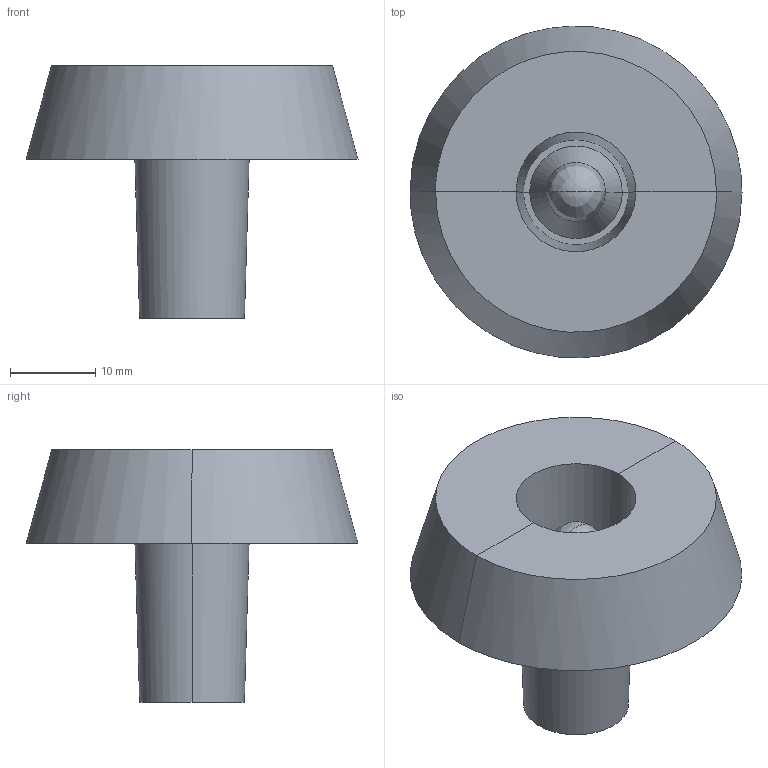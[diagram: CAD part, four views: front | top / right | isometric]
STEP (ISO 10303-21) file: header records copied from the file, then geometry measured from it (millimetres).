
FILE_DESCRIPTION(/* description */ (''),/* implementation_level */ '2;1');
FILE_NAME(/* name */ 'AMAMI',/* time_stamp */ '2012-11-06T14:53:43+01:00',/* author */ (''),/* organization */ (''),/* preprocessor_version */ 'ST-DEVELOPER v10',/* originating_system */ '',/* authorisation */ '');
FILE_SCHEMA (('CONFIG_CONTROL_DESIGN'));
Length unit declared in the file: millimetre
Products named in the file (1): 1
Bounding box: 39 x 38.98 x 29.65 mm (x, y, z)
Volume: 378.7 mm3; surface area: 4036.7 mm2
Topology: 5 solids, 7 shells, 40 faces, 82 edges, 42 vertices
Faces by surface type: bspline 40
Entity records: 1268 total; most frequent: CARTESIAN_POINT 763, ORIENTED_EDGE 136, EDGE_CURVE 70, VERTEX_POINT 42, ADVANCED_FACE 40, FACE_OUTER_BOUND 40, EDGE_LOOP 40, B_SPLINE_CURVE_WITH_KNOTS 28
